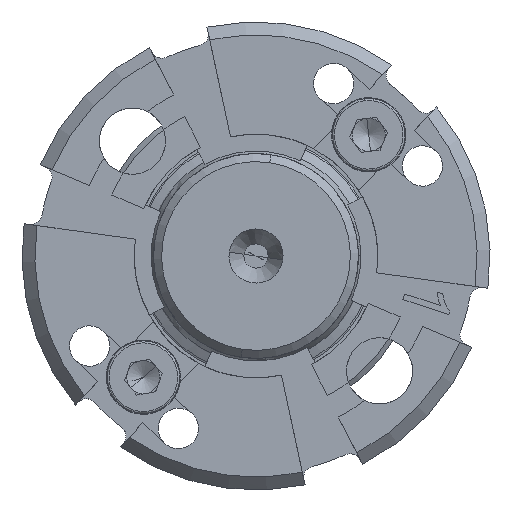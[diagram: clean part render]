
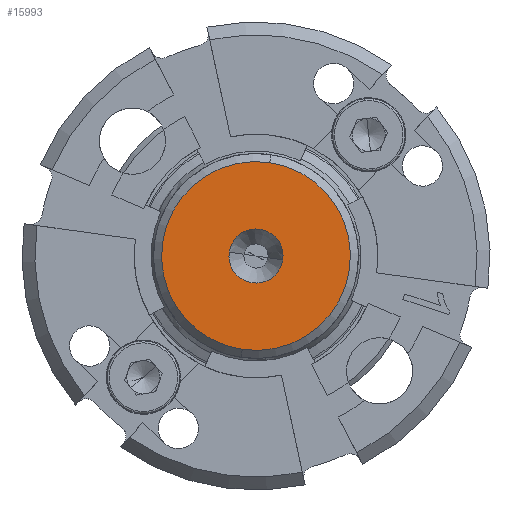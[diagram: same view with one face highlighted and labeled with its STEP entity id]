
A CAD part, front view. The second image highlights one B-rep face of the part: STEP entity #15993.
In plain terms, the highlighted planar face has unit normal (0, -1, 0) as drawn and (0, 1, 0) by its records, which use the part's own axes.
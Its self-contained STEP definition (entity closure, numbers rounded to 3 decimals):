
#3276 = CARTESIAN_POINT ( 'NONE',  ( 1.675, 0., 0. ) ) ;
#3295 = CIRCLE ( 'NONE', #3350, 1.675 ) ;
#3302 = CARTESIAN_POINT ( 'NONE',  ( -1.675, 0., 0. ) ) ;
#3305 = CARTESIAN_POINT ( 'NONE',  ( 0., 0., 0. ) ) ;
#3312 = DIRECTION ( 'NONE',  ( 0., 1., 0. ) ) ;
#3349 = DIRECTION ( 'NONE',  ( -1., 0., 0. ) ) ;
#3350 = AXIS2_PLACEMENT_3D ( 'NONE', #3305, #3312, #3349 ) ;
#3369 = CARTESIAN_POINT ( 'NONE',  ( 0., 0., 5.85 ) ) ;
#3378 = CARTESIAN_POINT ( 'NONE',  ( 0., 0., -5.85 ) ) ;
#3410 = DIRECTION ( 'NONE',  ( 0., 0., 1. ) ) ;
#3411 = DIRECTION ( 'NONE',  ( 0., 1., 0. ) ) ;
#3412 = CARTESIAN_POINT ( 'NONE',  ( 0., 0., 0. ) ) ;
#3413 = AXIS2_PLACEMENT_3D ( 'NONE', #3412, #3411, #3410 ) ;
#3414 = CIRCLE ( 'NONE', #3413, 5.85 ) ;
#3475 = CARTESIAN_POINT ( 'NONE',  ( 0., 0., 0. ) ) ;
#3513 = AXIS2_PLACEMENT_3D ( 'NONE', #3569, #3568, #3567 ) ;
#3515 = CIRCLE ( 'NONE', #3562, 5.85 ) ;
#3520 = FACE_BOUND ( 'NONE', #15991, .T. ) ;
#3521 = FACE_OUTER_BOUND ( 'NONE', #15985, .T. ) ;
#3526 = DIRECTION ( 'NONE',  ( -1., 0., 0. ) ) ;
#3527 = AXIS2_PLACEMENT_3D ( 'NONE', #3475, #3532, #3526 ) ;
#3528 = PLANE ( 'NONE',  #3513 ) ;
#3529 = CIRCLE ( 'NONE', #3527, 1.675 ) ;
#3532 = DIRECTION ( 'NONE',  ( 0., 1., 0. ) ) ;
#3559 = DIRECTION ( 'NONE',  ( 0., 0., 1. ) ) ;
#3560 = DIRECTION ( 'NONE',  ( 0., 1., 0. ) ) ;
#3561 = CARTESIAN_POINT ( 'NONE',  ( 0., 0., 0. ) ) ;
#3562 = AXIS2_PLACEMENT_3D ( 'NONE', #3561, #3560, #3559 ) ;
#3567 = DIRECTION ( 'NONE',  ( 0., 0., 1. ) ) ;
#3568 = DIRECTION ( 'NONE',  ( 0., 1., 0. ) ) ;
#3569 = CARTESIAN_POINT ( 'NONE',  ( 0., 0., 0. ) ) ;
#15860 = VERTEX_POINT ( 'NONE', #3276 ) ;
#15870 = VERTEX_POINT ( 'NONE', #3302 ) ;
#15874 = EDGE_CURVE ( 'NONE', #15860, #15870, #3295, .T. ) ;
#15906 = VERTEX_POINT ( 'NONE', #3369 ) ;
#15913 = VERTEX_POINT ( 'NONE', #3378 ) ;
#15915 = EDGE_CURVE ( 'NONE', #15906, #15913, #3414, .T. ) ;
#15978 = EDGE_CURVE ( 'NONE', #15870, #15860, #3529, .T. ) ;
#15985 = EDGE_LOOP ( 'NONE', ( #16014, #15996 ) ) ;
#15991 = EDGE_LOOP ( 'NONE', ( #15994, #16034 ) ) ;
#15993 = ADVANCED_FACE ( 'NONE', ( #3521, #3520 ), #3528, .T. ) ;
#15994 = ORIENTED_EDGE ( 'NONE', *, *, #15978, .F. ) ;
#15996 = ORIENTED_EDGE ( 'NONE', *, *, #15915, .T. ) ;
#15998 = EDGE_CURVE ( 'NONE', #15913, #15906, #3515, .T. ) ;
#16014 = ORIENTED_EDGE ( 'NONE', *, *, #15998, .T. ) ;
#16034 = ORIENTED_EDGE ( 'NONE', *, *, #15874, .F. ) ;
